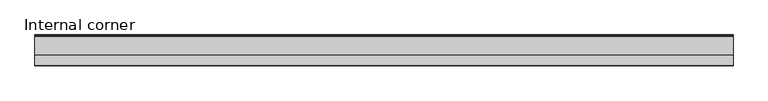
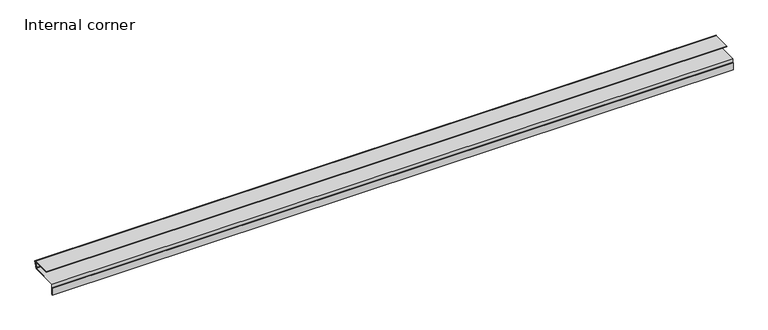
"""IFC4 building model written with IfcOpenShell, lengths in millimetres: beam geometry, TE-H-05_02_Internal corner i_BEAM : Internal corner."""

from ifc_helpers import new_model, si_unit, frame, origin, place, context, project, spatial, polyline, outline, extrude, source, transform, mapped, element, save


def internal_corner_3a0d7155(model_context):
    return source(origin(), model_context, "Body", "SweptSolid", [
        extrude(outline(polyline([(80.4617197, -2.4), (30.9830098, -2.4), (30.9830098, -1.6), (81.5043, -1.6), (77.4870945, -16.592415), (76.7143538, -16.3853598), (80.4617197, -2.4)])), frame((-920.0, 0.0, 0.0), z_axis=(1.0, 0.0, 0.0), x_axis=(0.0, 1.0, 0.0)), (0.0, 0.0, 1.0), 1875.594171),
        extrude(outline(polyline([(77.1994161, -18.4469826), (81.9616865, -0.6739474), (84.6662789, -1.3986408), (79.3069308, -21.4), (4.4, -21.4), (4.4, -51.4), (1.6, -51.4), (1.6, -31.0), (2.4, -31.0), (2.4, -50.6), (3.6, -50.6), (3.6, -20.6), (78.6930692, -20.6), (83.686483, -1.9643262), (82.527372, -1.6537433), (77.9721568, -18.6540379), (77.1994161, -18.4469826)])), frame((-920.0, 0.0, 0.0), z_axis=(1.0, 0.0, 0.0), x_axis=(0.0, 1.0, 0.0)), (0.0, 0.0, 1.0), 1875.594171),
    ])


if __name__ == "__main__":
    model = new_model("IFC4")
    model_context = context("Model", 3, world=origin())
    ifc_project = project(units=[si_unit("LENGTHUNIT", "METRE", prefix="MILLI")], contexts=[model_context])
    site = spatial("IfcSite", under=ifc_project)
    building = spatial("IfcBuilding", under=site)
    placement = place(None, origin())
    internal_corner_shape = internal_corner_3a0d7155(model_context)
    element("IfcBeam", 1, ObjectType="TE-H-05_02_Internal corner i_BEAM : Internal corner", at=placement, inside=building, context=model_context, shape_type="MappedRepresentation", body=[
        mapped(internal_corner_shape, transform((0.0, 0.0, 0.0), x_axis=(1.0, 0.0, 0.0), y_axis=(0.0, 1.0, 0.0), z_axis=(0.0, 0.0, 1.0))),
    ])
    save(model, "model.ifc")
